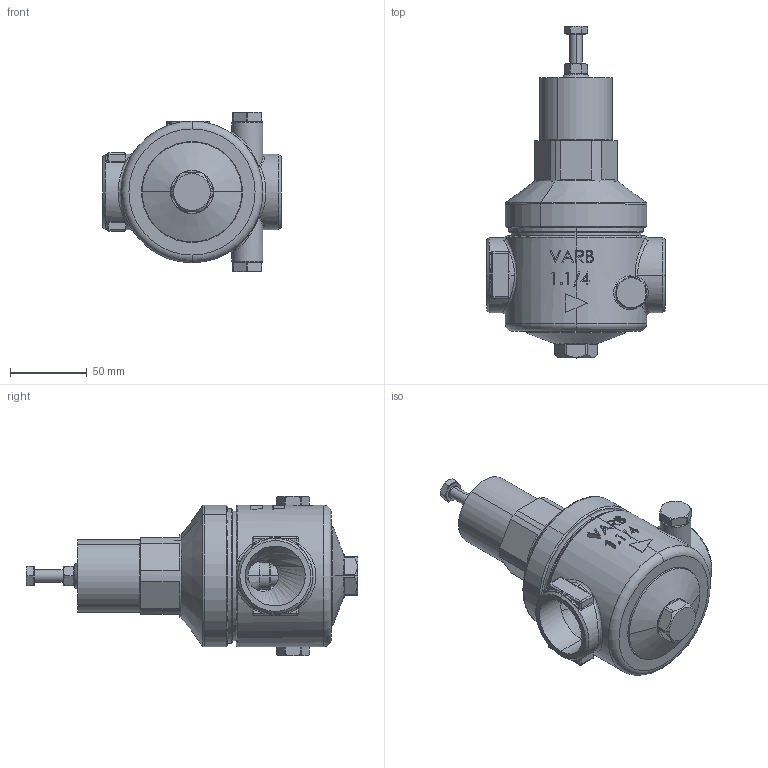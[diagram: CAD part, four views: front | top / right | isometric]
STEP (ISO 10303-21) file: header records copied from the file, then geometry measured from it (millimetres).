
FILE_DESCRIPTION (( 'STEP AP203' ), '1' );
FILE_NAME ('70-059-00-2.STEP', '2024-09-17T18:00:17', ( '' ), ( '' ), 'SwSTEP 2.0', 'SolidWorks 2024', '' );
FILE_SCHEMA (( 'CONFIG_CONTROL_DESIGN' ));
Length unit declared in the file: millimetre
Products named in the file (22): 70-059-02-3-5; Parker 2-117; 70-028-05-4; plug1_4BSP; 70-028-02-3; 70-028-07-4-A; 70-059-02-3-2; 70-059-02-3-3; 70-059-02-3-1; 70-028-06-4-A; 70-059-00-2; Parker 2-139; hex nut style 1 gradeab_din_Hexagon Nut ISO 4032 - M8 - W - N; 70-059-01-2; hex screw gradeab_din_DIN EN 24017 - M8 x 45-N; mola-70-028-05-4; 70-059-03-4-A; Parker 2-023; 70-028-04-3; Parker 2-021; 70-059-02-3-4; 70-059-03-4-B
Assembly tree (22 placements, depth 2):
  70-059-00-2
    70-059-01-2
    70-059-03-4-A
    70-059-03-4-B
    70-028-02-3
    70-028-04-3
    70-028-05-4
    mola-70-028-05-4
    70-028-06-4-A
    70-028-07-4-A
    70-059-02-3-1
    70-059-02-3-2
    70-059-02-3-3
    70-059-02-3-4
    70-059-02-3-5
    hex screw gradeab_din_DIN EN 24017 - M8 x 45-N
    hex nut style 1 gradeab_din_Hexagon Nut ISO 4032 - M8 - W - N
    Parker 2-117
    Parker 2-023
    Parker 2-139
    Parker 2-021
    plug1_4BSP  x2
Bounding box: 116 x 215.86 x 104 mm (x, y, z)
Volume: 378013.8 mm3; surface area: 204516.7 mm2
Topology: 22 solids, 22 shells, 841 faces, 1931 edges, 1172 vertices
Faces by surface type: plane 267, cylinder 245, cone 116, torus 107, bspline 90, sphere 16
Entity records: 36307 total; most frequent: CARTESIAN_POINT 16025, DIRECTION 3857, ORIENTED_EDGE 3674, EDGE_CURVE 1837, AXIS2_PLACEMENT_3D 1614, VERTEX_POINT 1118, EDGE_LOOP 897, CIRCLE 868
